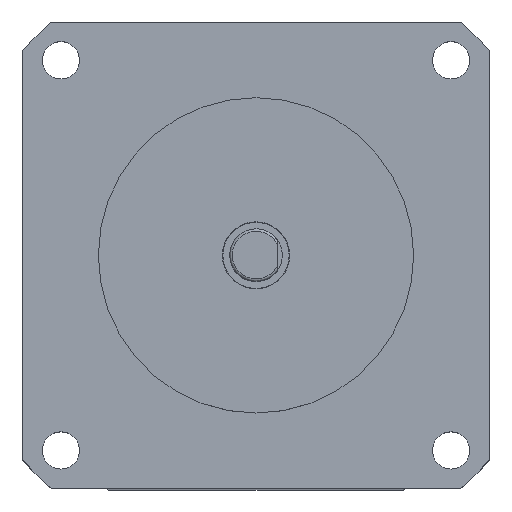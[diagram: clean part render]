
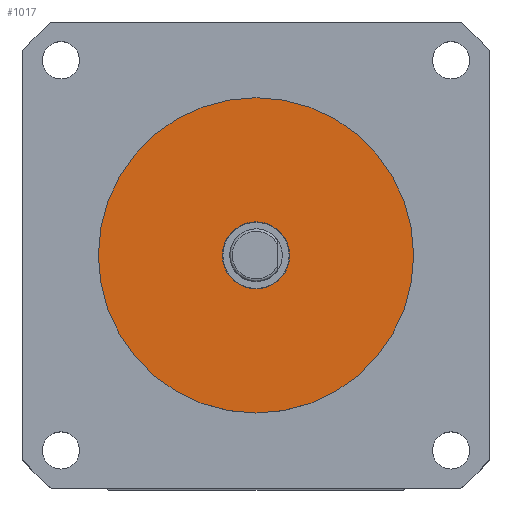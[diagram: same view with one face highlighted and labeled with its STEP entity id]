
A CAD part, top view. The second image highlights one B-rep face of the part: STEP entity #1017.
In plain terms, the highlighted planar face has unit normal (0, 0, 1).
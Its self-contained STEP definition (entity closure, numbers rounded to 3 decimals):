
#106 = CARTESIAN_POINT ( 'NONE',  ( 0., 0., 0. ) ) ;
#228 = EDGE_CURVE ( 'NONE', #2885, #3015, #284, .T. ) ;
#236 = DIRECTION ( 'NONE',  ( 1., 0., 0. ) ) ;
#243 = ORIENTED_EDGE ( 'NONE', *, *, #2201, .F. ) ;
#284 = CIRCLE ( 'NONE', #321, 4.05 ) ;
#318 = VERTEX_POINT ( 'NONE', #2600 ) ;
#321 = AXIS2_PLACEMENT_3D ( 'NONE', #106, #1751, #769 ) ;
#470 = AXIS2_PLACEMENT_3D ( 'NONE', #1410, #3302, #1677 ) ;
#689 = DIRECTION ( 'NONE',  ( 0., 0., 1. ) ) ;
#769 = DIRECTION ( 'NONE',  ( 1., 0., 0. ) ) ;
#781 = EDGE_CURVE ( 'NONE', #318, #2748, #2525, .T. ) ;
#866 = CARTESIAN_POINT ( 'NONE',  ( 4.05, 0., 0. ) ) ;
#887 = AXIS2_PLACEMENT_3D ( 'NONE', #1339, #3232, #1606 ) ;
#900 = CARTESIAN_POINT ( 'NONE',  ( 0., 0., 0. ) ) ;
#1017 = ADVANCED_FACE ( 'NONE', ( #1297, #2742 ), #2846, .T. ) ;
#1297 = FACE_BOUND ( 'NONE', #2046, .T. ) ;
#1334 = CIRCLE ( 'NONE', #887, 19.05 ) ;
#1339 = CARTESIAN_POINT ( 'NONE',  ( 0., 0., 0. ) ) ;
#1410 = CARTESIAN_POINT ( 'NONE',  ( 0., 0., 0. ) ) ;
#1501 = DIRECTION ( 'NONE',  ( 0., 0., 1. ) ) ;
#1606 = DIRECTION ( 'NONE',  ( 1., 0., 0. ) ) ;
#1677 = DIRECTION ( 'NONE',  ( 1., 0., 0. ) ) ;
#1751 = DIRECTION ( 'NONE',  ( 0., 0., 1. ) ) ;
#1876 = AXIS2_PLACEMENT_3D ( 'NONE', #2037, #1501, #3395 ) ;
#1884 = CARTESIAN_POINT ( 'NONE',  ( 19.05, 0., 0. ) ) ;
#2017 = CARTESIAN_POINT ( 'NONE',  ( -4.05, 0., 0. ) ) ;
#2037 = CARTESIAN_POINT ( 'NONE',  ( -28.2, 28.2, 0. ) ) ;
#2046 = EDGE_LOOP ( 'NONE', ( #2679, #243 ) ) ;
#2201 = EDGE_CURVE ( 'NONE', #3015, #2885, #3109, .T. ) ;
#2393 = ORIENTED_EDGE ( 'NONE', *, *, #781, .T. ) ;
#2460 = AXIS2_PLACEMENT_3D ( 'NONE', #900, #689, #236 ) ;
#2525 = CIRCLE ( 'NONE', #2460, 19.05 ) ;
#2600 = CARTESIAN_POINT ( 'NONE',  ( -19.05, 0., 0. ) ) ;
#2668 = EDGE_LOOP ( 'NONE', ( #3098, #2393 ) ) ;
#2679 = ORIENTED_EDGE ( 'NONE', *, *, #228, .F. ) ;
#2742 = FACE_OUTER_BOUND ( 'NONE', #2668, .T. ) ;
#2748 = VERTEX_POINT ( 'NONE', #1884 ) ;
#2846 = PLANE ( 'NONE',  #1876 ) ;
#2885 = VERTEX_POINT ( 'NONE', #866 ) ;
#3015 = VERTEX_POINT ( 'NONE', #2017 ) ;
#3098 = ORIENTED_EDGE ( 'NONE', *, *, #3421, .T. ) ;
#3109 = CIRCLE ( 'NONE', #470, 4.05 ) ;
#3232 = DIRECTION ( 'NONE',  ( 0., 0., 1. ) ) ;
#3302 = DIRECTION ( 'NONE',  ( 0., 0., 1. ) ) ;
#3395 = DIRECTION ( 'NONE',  ( 1., 0., 0. ) ) ;
#3421 = EDGE_CURVE ( 'NONE', #2748, #318, #1334, .T. ) ;
